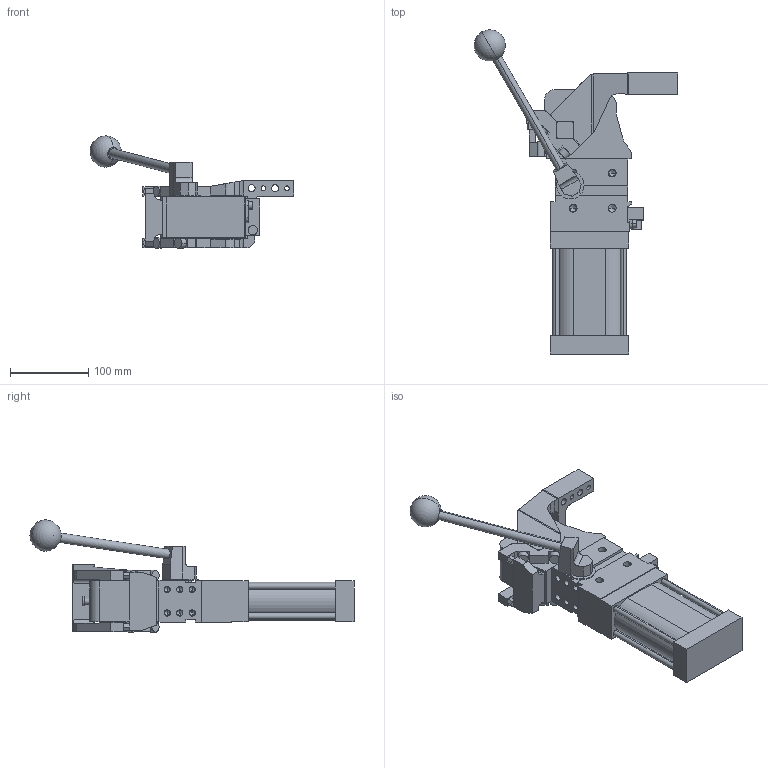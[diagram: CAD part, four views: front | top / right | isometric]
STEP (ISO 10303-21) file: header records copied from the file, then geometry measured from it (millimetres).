
FILE_DESCRIPTION (( 'STEP AP214' ), '1' );
FILE_NAME ('cplm63latv3ssi1g_26.STEP', '2023-01-26T15:08:21', ( '' ), ( '' ), 'SwSTEP 2.0', 'SolidWorks 2022', '' );
FILE_SCHEMA (( 'AUTOMOTIVE_DESIGN' ));
Length unit declared in the file: millimetre
Products named in the file (5): leva_v3ss_cpl63t; blocchetto_VEP_0; meccanica_cplm_63_tassello_esterno; cplm63latv3ssi1g_26; comando_manuale_cplm_63
Assembly tree (4 placements, depth 2):
  cplm63latv3ssi1g_26
    meccanica_cplm_63_tassello_esterno
    blocchetto_VEP_0
    leva_v3ss_cpl63t
    comando_manuale_cplm_63
Bounding box: 260.57 x 414.56 x 143.5 mm (x, y, z)
Volume: 1930615.1 mm3; surface area: 221161.3 mm2
Topology: 4 solids, 4 shells, 469 faces, 1239 edges, 773 vertices
Faces by surface type: plane 250, cylinder 167, cone 50, sphere 2
Entity records: 15764 total; most frequent: CARTESIAN_POINT 2534, DIRECTION 2493, ORIENTED_EDGE 2376, EDGE_CURVE 1188, AXIS2_PLACEMENT_3D 843, LINE 807, VECTOR 807, VERTEX_POINT 770
